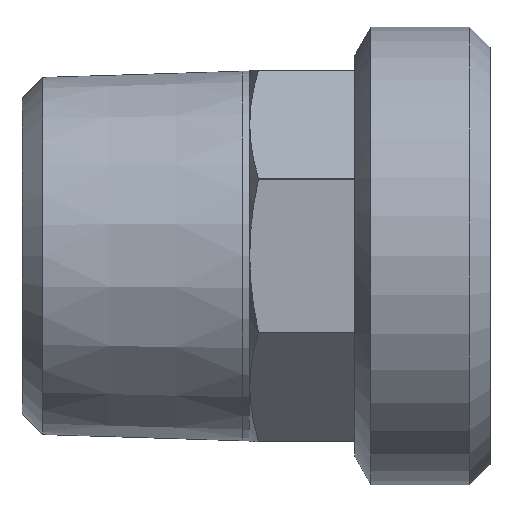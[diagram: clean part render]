
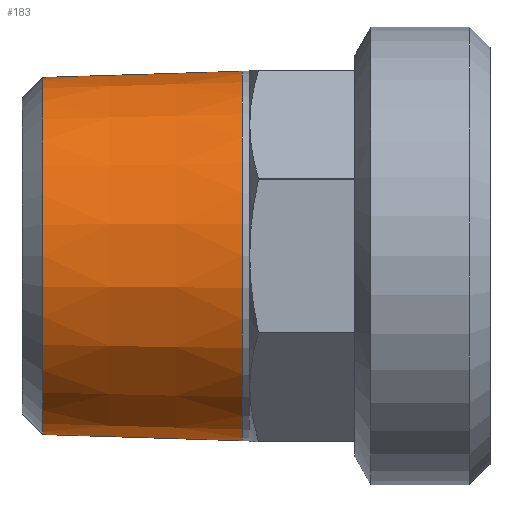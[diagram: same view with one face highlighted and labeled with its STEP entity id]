
A CAD part, top view. The second image highlights one B-rep face of the part: STEP entity #183.
In plain terms, the highlighted conical face has half-angle 1.78 degrees and reference radius 13.174 mm.
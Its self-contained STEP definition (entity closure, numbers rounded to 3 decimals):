
#152=CARTESIAN_POINT('',(1.499,12.972,0.));
#153=VERTEX_POINT('',#152);
#154=CARTESIAN_POINT('',(1.499,0.0,0.));
#155=DIRECTION('',(-1.0,0.0,0.0));
#156=DIRECTION('',(0.0,-1.0,0.0));
#157=AXIS2_PLACEMENT_3D('',#154,#155,#156);
#158=CIRCLE('',#157,12.972);
#159=EDGE_CURVE('',#153,#153,#158,.T.);
#164=CARTESIAN_POINT('',(8.0,0.0,0.0));
#165=DIRECTION('',(1.0,0.0,0.0));
#166=DIRECTION('',(0.0,1.0,0.0));
#167=AXIS2_PLACEMENT_3D('',#164,#165,#166);
#168=CONICAL_SURFACE('',#167,13.174,1.78);
#169=CARTESIAN_POINT('',(16.0,13.422,0.0));
#170=VERTEX_POINT('',#169);
#171=CARTESIAN_POINT('',(16.0,0.0,0.0));
#172=DIRECTION('',(1.0,0.0,0.0));
#173=DIRECTION('',(0.0,1.0,0.0));
#174=AXIS2_PLACEMENT_3D('',#171,#172,#173);
#175=CIRCLE('',#174,13.422);
#176=EDGE_CURVE('',#170,#170,#175,.T.);
#177=ORIENTED_EDGE('',*,*,#176,.F.);
#178=EDGE_LOOP('',(#177));
#179=FACE_OUTER_BOUND('',#178,.T.);
#180=ORIENTED_EDGE('',*,*,#159,.F.);
#181=EDGE_LOOP('',(#180));
#182=FACE_BOUND('',#181,.T.);
#183=ADVANCED_FACE('',(#179,#182),#168,.T.);
